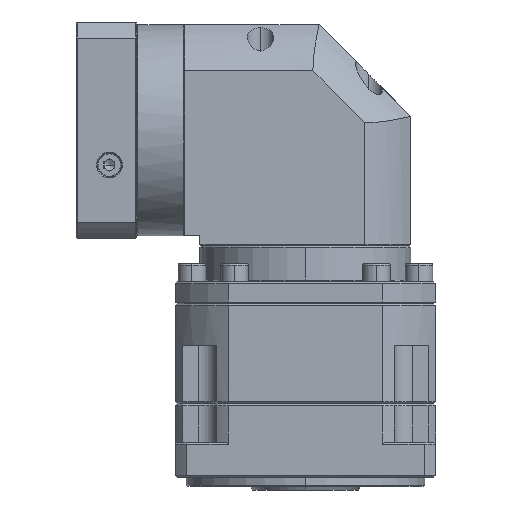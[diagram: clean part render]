
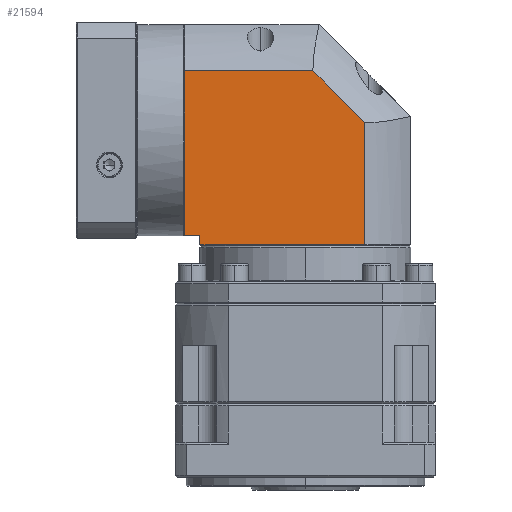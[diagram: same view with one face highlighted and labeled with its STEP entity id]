
A CAD part, left-side view. The second image highlights one B-rep face of the part: STEP entity #21594.
In plain terms, the highlighted planar face has unit normal (-1, 0, 0).
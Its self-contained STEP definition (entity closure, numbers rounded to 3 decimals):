
#4989 = VECTOR ( 'NONE', #29758, 1000. ) ;
#5488 = LINE ( 'NONE', #9602, #117873 ) ;
#6019 = DIRECTION ( 'NONE',  ( 1., 0., 0. ) ) ;
#9602 = CARTESIAN_POINT ( 'NONE',  ( -80.943, 55.699, 313.8 ) ) ;
#14004 = VERTEX_POINT ( 'NONE', #37094 ) ;
#15787 = ORIENTED_EDGE ( 'NONE', *, *, #94289, .F. ) ;
#16788 = ORIENTED_EDGE ( 'NONE', *, *, #39180, .F. ) ;
#17478 = DIRECTION ( 'NONE',  ( 0., -1., 0. ) ) ;
#21594 = ADVANCED_FACE ( 'NONE', ( #39676 ), #82624, .F. ) ;
#22879 = DIRECTION ( 'NONE',  ( 0., 0., 1. ) ) ;
#23575 = CARTESIAN_POINT ( 'NONE',  ( -80.943, -42.601, 320.3 ) ) ;
#24266 = EDGE_CURVE ( 'NONE', #87339, #82145, #130801, .T. ) ;
#29551 = VECTOR ( 'NONE', #114003, 1000. ) ;
#29758 = DIRECTION ( 'NONE',  ( 0., 1., 0. ) ) ;
#31316 = EDGE_CURVE ( 'NONE', #116454, #132366, #44846, .T. ) ;
#34206 = AXIS2_PLACEMENT_3D ( 'NONE', #50210, #6019, #17478 ) ;
#36726 = VERTEX_POINT ( 'NONE', #43036 ) ;
#37094 = CARTESIAN_POINT ( 'NONE',  ( -80.943, 47.299, 320.3 ) ) ;
#38754 = CARTESIAN_POINT ( 'NONE',  ( -80.943, -14.263, 415.2 ) ) ;
#39180 = EDGE_CURVE ( 'NONE', #71693, #14004, #69638, .T. ) ;
#39183 = VECTOR ( 'NONE', #90473, 1000. ) ;
#39676 = FACE_OUTER_BOUND ( 'NONE', #101823, .T. ) ;
#43036 = CARTESIAN_POINT ( 'NONE',  ( -80.943, 55.699, 415.2 ) ) ;
#44846 = LINE ( 'NONE', #38754, #29551 ) ;
#46128 = EDGE_CURVE ( 'NONE', #36726, #116454, #136268, .T. ) ;
#47583 = ORIENTED_EDGE ( 'NONE', *, *, #121420, .F. ) ;
#50210 = CARTESIAN_POINT ( 'NONE',  ( -80.943, -67.701, 313.8 ) ) ;
#51992 = ORIENTED_EDGE ( 'NONE', *, *, #31316, .F. ) ;
#52054 = CARTESIAN_POINT ( 'NONE',  ( -80.943, -14.263, 415.2 ) ) ;
#52080 = CARTESIAN_POINT ( 'NONE',  ( -80.943, -42.601, 313.8 ) ) ;
#53119 = CARTESIAN_POINT ( 'NONE',  ( -80.943, -42.601, 386.862 ) ) ;
#61582 = ORIENTED_EDGE ( 'NONE', *, *, #46128, .F. ) ;
#61718 = EDGE_CURVE ( 'NONE', #82145, #14004, #121031, .T. ) ;
#62063 = CARTESIAN_POINT ( 'NONE',  ( -80.943, 47.299, 440.3 ) ) ;
#69638 = LINE ( 'NONE', #84057, #4989 ) ;
#71693 = VERTEX_POINT ( 'NONE', #23575 ) ;
#72876 = VECTOR ( 'NONE', #100185, 1000. ) ;
#80837 = CARTESIAN_POINT ( 'NONE',  ( -80.943, -67.701, 415.2 ) ) ;
#82145 = VERTEX_POINT ( 'NONE', #114459 ) ;
#82624 = PLANE ( 'NONE',  #34206 ) ;
#84057 = CARTESIAN_POINT ( 'NONE',  ( -80.943, -67.701, 320.3 ) ) ;
#87339 = VERTEX_POINT ( 'NONE', #90602 ) ;
#90473 = DIRECTION ( 'NONE',  ( 0., -1., 0. ) ) ;
#90602 = CARTESIAN_POINT ( 'NONE',  ( -80.943, 55.699, 325.3 ) ) ;
#92145 = VECTOR ( 'NONE', #139199, 1000. ) ;
#94289 = EDGE_CURVE ( 'NONE', #87339, #36726, #5488, .T. ) ;
#100185 = DIRECTION ( 'NONE',  ( 0., -1., 0. ) ) ;
#101609 = ORIENTED_EDGE ( 'NONE', *, *, #24266, .T. ) ;
#101823 = EDGE_LOOP ( 'NONE', ( #47583, #51992, #61582, #15787, #101609, #122358, #16788 ) ) ;
#112035 = CARTESIAN_POINT ( 'NONE',  ( -80.943, 47.299, 325.3 ) ) ;
#114003 = DIRECTION ( 'NONE',  ( 0., -0.707, -0.707 ) ) ;
#114459 = CARTESIAN_POINT ( 'NONE',  ( -80.943, 47.299, 325.3 ) ) ;
#116454 = VERTEX_POINT ( 'NONE', #52054 ) ;
#117873 = VECTOR ( 'NONE', #22879, 1000. ) ;
#121031 = LINE ( 'NONE', #62063, #92145 ) ;
#121420 = EDGE_CURVE ( 'NONE', #132366, #71693, #136975, .T. ) ;
#122358 = ORIENTED_EDGE ( 'NONE', *, *, #61718, .T. ) ;
#126767 = VECTOR ( 'NONE', #139626, 1000. ) ;
#130801 = LINE ( 'NONE', #112035, #72876 ) ;
#132366 = VERTEX_POINT ( 'NONE', #53119 ) ;
#136268 = LINE ( 'NONE', #80837, #39183 ) ;
#136975 = LINE ( 'NONE', #52080, #126767 ) ;
#139199 = DIRECTION ( 'NONE',  ( 0., 0., -1. ) ) ;
#139626 = DIRECTION ( 'NONE',  ( 0., 0., -1. ) ) ;
